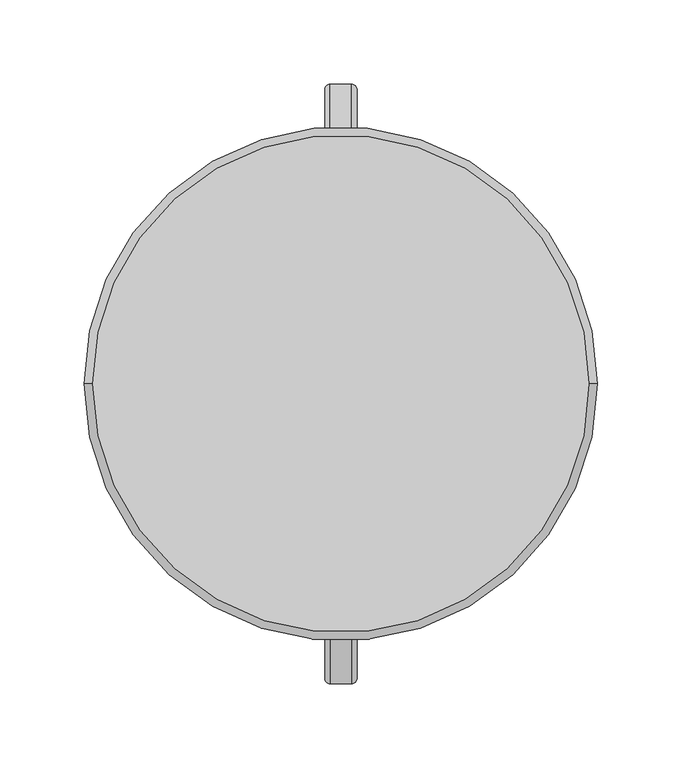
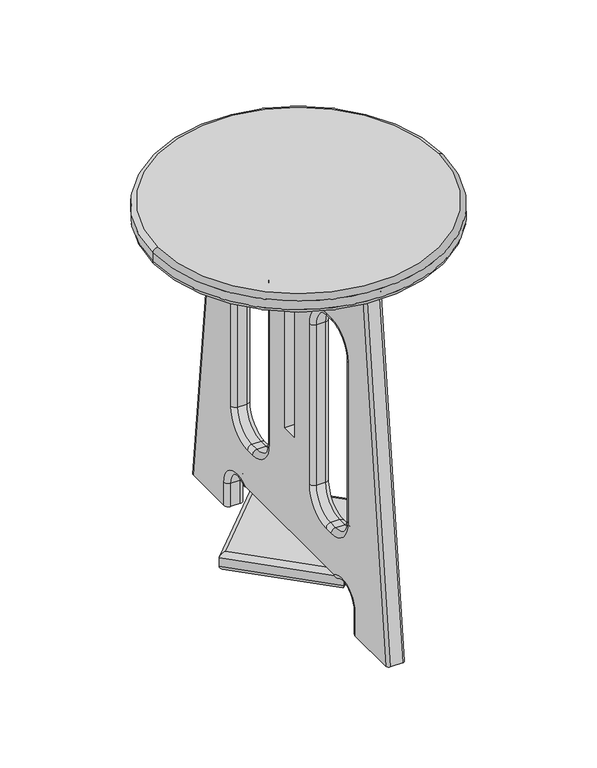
"""IFC4 building model written with IfcOpenShell, lengths in millimetres: furniture geometry, SSL-Childcraft_Outdoor-Stool : 2161353."""

from ifc_helpers import new_model, si_unit, point, frame, origin, origin_with_axes, place, context, project, spatial, polyline, circle_curve, ellipse_curve, trimmed, source, transform, mapped, element, save
from ifc_brep_helpers import plane_surface, cylinder_surface, revolved_surface, extruded_surface, spline_surface, advanced_brep


def furniture_f012aeb6(model_context):
    return source(origin(), model_context, "Body", "AdvancedBrep", [
        advanced_brep(
        [(6.35, 134.9375, 387.35), (9.525, 131.7625, 387.35), (9.525, 174.6274937, 0.0), (6.3524937, 177.8, 0.0), (-6.35, 134.9375, 387.35), (-6.35, 177.8, 0.0), (-9.525, 131.7625, 387.35), (-9.525, 174.625, 0.0), (4.7625, -41.2877, 117.475), (4.7625, -66.675, 92.0877), (9.525, -66.675, 87.3252), (9.525, -36.5252, 117.475), (-4.7625, -41.2877, 117.475), (-4.7625, -66.675, 92.0877), (-9.525, -36.5252, 117.475), (-9.525, -66.675, 87.3252), (9.525, -36.5252, 295.275), (4.7625, -41.2877, 295.275), (-4.7625, -41.2877, 295.275), (-9.525, -36.5252, 295.275), (9.525, -66.675, 325.4248), (4.7625, -66.675, 320.6623), (-4.7625, -66.675, 320.6623), (-9.525, -66.675, 325.4248), (9.525, -76.1873, 325.4248), (4.7625, -76.1873, 320.6623), (-4.7625, -76.1873, 320.6623), (-9.525, -76.1873, 325.4248), (9.525, -106.3498, 295.2623), (4.7625, -101.5873, 295.2623), (-4.7625, -101.5873, 295.2623), (-9.525, -106.3498, 295.2623), (9.525, -106.3498, 117.475), (4.7625, -101.5873, 117.475), (-4.7625, -101.5873, 117.475), (-9.525, -106.3498, 117.475), (9.525, -76.2, 87.3252), (4.7625, -76.2, 92.0877), (-4.7625, -76.2, 92.0877), (-9.525, -76.2, 87.3252), (4.7625, 101.5873, 117.475), (4.7625, 76.2, 92.0877), (9.525, 76.2, 87.3252), (9.525, 106.3498, 117.475), (-4.7625, 101.5873, 117.475), (-4.7625, 76.2, 92.0877), (-9.525, 106.3498, 117.475), (-9.525, 76.2, 87.3252), (9.525, 106.3498, 295.2623), (4.7625, 101.5873, 295.2623), (-4.7625, 101.5873, 295.2623), (-9.525, 106.3498, 295.2623), (9.525, 76.1873, 325.4248), (4.7625, 76.1873, 320.6623), (-4.7625, 76.1873, 320.6623), (-9.525, 76.1873, 325.4248), (9.525, 66.675, 325.4248), (4.7625, 66.675, 320.6623), (-4.7625, 66.675, 320.6623), (-9.525, 66.675, 325.4248), (9.525, 36.5252, 295.275), (4.7625, 41.2877, 295.275), (-4.7625, 41.2877, 295.275), (-9.525, 36.5252, 295.275), (9.525, 36.5252, 117.475), (4.7625, 41.2877, 117.475), (-4.7625, 41.2877, 117.475), (-9.525, 36.5252, 117.475), (9.525, 66.675, 87.3252), (4.7625, 66.675, 92.0877), (-4.7625, 66.675, 92.0877), (-9.525, 66.675, 87.3252), (4.7625, 114.2873, 0.0), (9.525, 119.0498, 0.0), (9.525, 119.0498, 25.4), (4.7625, 114.2873, 25.4), (-4.7625, 114.2873, 0.0), (-4.7625, 114.2873, 25.4), (-9.525, 119.0498, 0.0), (-9.525, 119.0498, 25.4), (-9.525, 80.97012, 44.43984), (-4.7625, 83.82762, 40.62984), (4.7625, 83.82762, 40.62984), (9.525, 80.97012, 44.43984), (9.525, -119.0498, 0.0), (4.7625, -114.2873, 0.0), (4.7625, -114.2873, 25.4), (9.525, -119.0498, 25.4), (-4.7625, -114.2873, 0.0), (-4.7625, -114.2873, 25.4), (-9.525, -119.0498, 0.0), (-9.525, -119.0498, 25.4), (9.525, -80.97012, 44.43984), (4.7625, -83.82762, 40.62984), (-4.7625, -83.82762, 40.62984), (-9.525, -80.97012, 44.43984), (9.525, 101.6, 387.35), (9.525, 82.55, 368.3), (9.525, 9.525, 368.3), (9.525, 9.525, 152.4), (9.525, -9.525, 152.4), (9.525, -9.525, 368.3), (9.525, -82.55, 368.3), (9.525, -101.6, 387.35), (9.525, -131.7625, 387.35), (9.525, -174.625, 0.0), (-9.525, -174.6274937, 0.0), (-9.525, -131.7625, 387.35), (-9.525, -101.6, 387.35), (-9.525, -82.55, 368.3), (-9.525, -9.525, 368.3), (-9.525, -9.525, 152.4), (-9.525, 9.525, 152.4), (-9.525, 9.525, 368.3), (-9.525, 82.55, 368.3), (-9.525, 101.6, 387.35), (-6.35, -134.9375, 387.35), (6.35, -134.9375, 387.35), (6.35, -177.8, 0.0), (-6.3524937, -177.8, 0.0)],
        [
            (0, 1, circle_curve(frame((6.35, 131.7625, 387.35), z_axis=(0.0, 0.0, -1.0), x_axis=(1.0, 0.0, 0.0)), 3.175)),
            (1, 2),
            (2, 3, circle_curve(frame((6.3524937, 174.6274937, 0.0), z_axis=(0.0, 0.0, 1.0), x_axis=(1.0, 0.0, 0.0)), 3.1725063)),
            (3, 0),
            (4, 0),
            (3, 5),
            (5, 4),
            (6, 4, circle_curve(frame((-6.35, 131.7625, 387.35), z_axis=(0.0, 0.0, -1.0), x_axis=(1.0, 0.0, 0.0)), 3.175)),
            (5, 7, circle_curve(frame((-6.35, 174.625, 0.0), z_axis=(0.0, 0.0, 1.0), x_axis=(1.0, 0.0, 0.0)), 3.175)),
            (7, 6),
            (8, 9, circle_curve(frame((4.7625, -66.675, 117.475), z_axis=(-1.0, 0.0, 0.0), x_axis=(0.0, 0.0, -1.0)), 25.3873)),
            (9, 10, circle_curve(frame((4.7625, -66.675, 87.3252), z_axis=(0.0, 1.0, 0.0), x_axis=(0.0, 0.0, 1.0)), 4.7625)),
            (10, 11, circle_curve(frame((9.525, -66.675, 117.475), z_axis=(1.0, 0.0, 0.0), x_axis=(0.0, 0.0, -1.0)), 30.1498)),
            (11, 8, circle_curve(frame((4.7625, -36.5252, 117.475), z_axis=(0.0, 0.0, -1.0), x_axis=(0.0, -1.0, 0.0)), 4.7625)),
            (8, 12),
            (12, 13, circle_curve(frame((-4.7625, -66.675, 117.475), z_axis=(-1.0, 0.0, 0.0), x_axis=(0.0, 0.0, -1.0)), 25.3873)),
            (13, 9),
            (12, 14, circle_curve(frame((-4.7625, -36.5252, 117.475), z_axis=(0.0, 0.0, -1.0), x_axis=(0.0, -1.0, 0.0)), 4.7625)),
            (14, 15, circle_curve(frame((-9.525, -66.675, 117.475), z_axis=(-1.0, 0.0, 0.0), x_axis=(0.0, 0.0, -1.0)), 30.1498)),
            (15, 13, circle_curve(frame((-4.7625, -66.675, 87.3252), z_axis=(0.0, 1.0, 0.0), x_axis=(0.0, 0.0, 1.0)), 4.7625)),
            (11, 16),
            (16, 17, circle_curve(frame((4.7625, -36.5252, 295.275), z_axis=(0.0, 0.0, -1.0), x_axis=(0.0, -1.0, 0.0)), 4.7625)),
            (17, 8),
            (17, 18),
            (18, 12),
            (18, 19, circle_curve(frame((-4.7625, -36.5252, 295.275), z_axis=(0.0, 0.0, -1.0), x_axis=(0.0, -1.0, 0.0)), 4.7625)),
            (19, 14),
            (16, 20, circle_curve(frame((9.525, -66.675, 295.275), z_axis=(1.0, 0.0, 0.0), x_axis=(0.0, 1.0, 0.0)), 30.1498)),
            (20, 21, circle_curve(frame((4.7625, -66.675, 325.4248), z_axis=(0.0, 1.0, 0.0), x_axis=(0.0, 0.0, -1.0)), 4.7625)),
            (21, 17, circle_curve(frame((4.7625, -66.675, 295.275), z_axis=(-1.0, 0.0, 0.0), x_axis=(0.0, 1.0, 0.0)), 25.3873)),
            (21, 22),
            (22, 18, circle_curve(frame((-4.7625, -66.675, 295.275), z_axis=(-1.0, 0.0, 0.0), x_axis=(0.0, 1.0, 0.0)), 25.3873)),
            (22, 23, circle_curve(frame((-4.7625, -66.675, 325.4248), z_axis=(0.0, 1.0, 0.0), x_axis=(0.0, 0.0, -1.0)), 4.7625)),
            (23, 19, circle_curve(frame((-9.525, -66.675, 295.275), z_axis=(-1.0, 0.0, 0.0), x_axis=(0.0, 1.0, 0.0)), 30.1498)),
            (20, 24),
            (24, 25, circle_curve(frame((4.7625, -76.1873, 325.4248), z_axis=(0.0, 1.0, 0.0), x_axis=(0.0, 0.0, -1.0)), 4.7625)),
            (25, 21),
            (25, 26),
            (26, 22),
            (26, 27, circle_curve(frame((-4.7625, -76.1873, 325.4248), z_axis=(0.0, 1.0, 0.0), x_axis=(0.0, 0.0, -1.0)), 4.7625)),
            (27, 23),
            (24, 28, circle_curve(frame((9.525, -76.1873, 295.2623), z_axis=(1.0, 0.0, 0.0), x_axis=(0.0, 0.0, 1.0)), 30.1625)),
            (28, 29, circle_curve(frame((4.7625, -106.3498, 295.2623), z_axis=(0.0, 0.0, 1.0), x_axis=(0.0, 1.0, 0.0)), 4.7625)),
            (29, 25, circle_curve(frame((4.7625, -76.1873, 295.2623), z_axis=(-1.0, 0.0, 0.0), x_axis=(0.0, 0.0, 1.0)), 25.4)),
            (29, 30),
            (30, 26, circle_curve(frame((-4.7625, -76.1873, 295.2623), z_axis=(-1.0, 0.0, 0.0), x_axis=(0.0, 0.0, 1.0)), 25.4)),
            (30, 31, circle_curve(frame((-4.7625, -106.3498, 295.2623), z_axis=(0.0, 0.0, 1.0), x_axis=(0.0, 1.0, 0.0)), 4.7625)),
            (31, 27, circle_curve(frame((-9.525, -76.1873, 295.2623), z_axis=(-1.0, 0.0, 0.0), x_axis=(0.0, 0.0, 1.0)), 30.1625)),
            (28, 32),
            (32, 33, circle_curve(frame((4.7625, -106.3498, 117.475), z_axis=(0.0, 0.0, 1.0), x_axis=(0.0, 1.0, 0.0)), 4.7625)),
            (33, 29),
            (33, 34),
            (34, 30),
            (34, 35, circle_curve(frame((-4.7625, -106.3498, 117.475), z_axis=(0.0, 0.0, 1.0), x_axis=(0.0, 1.0, 0.0)), 4.7625)),
            (35, 31),
            (32, 36, circle_curve(frame((9.525, -76.2, 117.475), z_axis=(1.0, 0.0, 0.0), x_axis=(0.0, -1.0, 0.0)), 30.1498)),
            (36, 37, circle_curve(frame((4.7625, -76.2, 87.3252), z_axis=(0.0, -1.0, 0.0), x_axis=(0.0, 0.0, 1.0)), 4.7625)),
            (37, 33, circle_curve(frame((4.7625, -76.2, 117.475), z_axis=(-1.0, 0.0, 0.0), x_axis=(0.0, -1.0, 0.0)), 25.3873)),
            (37, 38),
            (38, 34, circle_curve(frame((-4.7625, -76.2, 117.475), z_axis=(-1.0, 0.0, 0.0), x_axis=(0.0, -1.0, 0.0)), 25.3873)),
            (38, 39, circle_curve(frame((-4.7625, -76.2, 87.3252), z_axis=(0.0, -1.0, 0.0), x_axis=(0.0, 0.0, 1.0)), 4.7625)),
            (39, 35, circle_curve(frame((-9.525, -76.2, 117.475), z_axis=(-1.0, 0.0, 0.0), x_axis=(0.0, -1.0, 0.0)), 30.1498)),
            (9, 37),
            (36, 10),
            (13, 38),
            (15, 39),
            (40, 41, circle_curve(frame((4.7625, 76.2, 117.475), z_axis=(-1.0, 0.0, 0.0), x_axis=(0.0, 0.0, -1.0)), 25.3873)),
            (41, 42, circle_curve(frame((4.7625, 76.2, 87.3252), z_axis=(0.0, 1.0, 0.0), x_axis=(0.0, 0.0, 1.0)), 4.7625)),
            (42, 43, circle_curve(frame((9.525, 76.2, 117.475), z_axis=(1.0, 0.0, 0.0), x_axis=(0.0, 0.0, -1.0)), 30.1498)),
            (43, 40, circle_curve(frame((4.7625, 106.3498, 117.475), z_axis=(0.0, 0.0, -1.0), x_axis=(0.0, -1.0, 0.0)), 4.7625)),
            (40, 44),
            (44, 45, circle_curve(frame((-4.7625, 76.2, 117.475), z_axis=(-1.0, 0.0, 0.0), x_axis=(0.0, 0.0, -1.0)), 25.3873)),
            (45, 41),
            (44, 46, circle_curve(frame((-4.7625, 106.3498, 117.475), z_axis=(0.0, 0.0, -1.0), x_axis=(0.0, -1.0, 0.0)), 4.7625)),
            (46, 47, circle_curve(frame((-9.525, 76.2, 117.475), z_axis=(-1.0, 0.0, 0.0), x_axis=(0.0, 0.0, -1.0)), 30.1498)),
            (47, 45, circle_curve(frame((-4.7625, 76.2, 87.3252), z_axis=(0.0, 1.0, 0.0), x_axis=(0.0, 0.0, 1.0)), 4.7625)),
            (43, 48),
            (48, 49, circle_curve(frame((4.7625, 106.3498, 295.2623), z_axis=(0.0, 0.0, -1.0), x_axis=(0.0, -1.0, 0.0)), 4.7625)),
            (49, 40),
            (49, 50),
            (50, 44),
            (50, 51, circle_curve(frame((-4.7625, 106.3498, 295.2623), z_axis=(0.0, 0.0, -1.0), x_axis=(0.0, -1.0, 0.0)), 4.7625)),
            (51, 46),
            (48, 52, circle_curve(frame((9.525, 76.1873, 295.2623), z_axis=(1.0, 0.0, 0.0), x_axis=(0.0, 1.0, 0.0)), 30.1625)),
            (52, 53, circle_curve(frame((4.7625, 76.1873, 325.4248), z_axis=(0.0, 1.0, 0.0), x_axis=(0.0, 0.0, -1.0)), 4.7625)),
            (53, 49, circle_curve(frame((4.7625, 76.1873, 295.2623), z_axis=(-1.0, 0.0, 0.0), x_axis=(0.0, 1.0, 0.0)), 25.4)),
            (53, 54),
            (54, 50, circle_curve(frame((-4.7625, 76.1873, 295.2623), z_axis=(-1.0, 0.0, 0.0), x_axis=(0.0, 1.0, 0.0)), 25.4)),
            (54, 55, circle_curve(frame((-4.7625, 76.1873, 325.4248), z_axis=(0.0, 1.0, 0.0), x_axis=(0.0, 0.0, -1.0)), 4.7625)),
            (55, 51, circle_curve(frame((-9.525, 76.1873, 295.2623), z_axis=(-1.0, 0.0, 0.0), x_axis=(0.0, 1.0, 0.0)), 30.1625)),
            (52, 56),
            (56, 57, circle_curve(frame((4.7625, 66.675, 325.4248), z_axis=(0.0, 1.0, 0.0), x_axis=(0.0, 0.0, -1.0)), 4.7625)),
            (57, 53),
            (57, 58),
            (58, 54),
            (58, 59, circle_curve(frame((-4.7625, 66.675, 325.4248), z_axis=(0.0, 1.0, 0.0), x_axis=(0.0, 0.0, -1.0)), 4.7625)),
            (59, 55),
            (56, 60, circle_curve(frame((9.525, 66.675, 295.275), z_axis=(1.0, 0.0, 0.0), x_axis=(0.0, 0.0, 1.0)), 30.1498)),
            (60, 61, circle_curve(frame((4.7625, 36.5252, 295.275), z_axis=(0.0, 0.0, 1.0), x_axis=(0.0, 1.0, 0.0)), 4.7625)),
            (61, 57, circle_curve(frame((4.7625, 66.675, 295.275), z_axis=(-1.0, 0.0, 0.0), x_axis=(0.0, 0.0, 1.0)), 25.3873)),
            (61, 62),
            (62, 58, circle_curve(frame((-4.7625, 66.675, 295.275), z_axis=(-1.0, 0.0, 0.0), x_axis=(0.0, 0.0, 1.0)), 25.3873)),
            (62, 63, circle_curve(frame((-4.7625, 36.5252, 295.275), z_axis=(0.0, 0.0, 1.0), x_axis=(0.0, 1.0, 0.0)), 4.7625)),
            (63, 59, circle_curve(frame((-9.525, 66.675, 295.275), z_axis=(-1.0, 0.0, 0.0), x_axis=(0.0, 0.0, 1.0)), 30.1498)),
            (60, 64),
            (64, 65, circle_curve(frame((4.7625, 36.5252, 117.475), z_axis=(0.0, 0.0, 1.0), x_axis=(0.0, 1.0, 0.0)), 4.7625)),
            (65, 61),
            (65, 66),
            (66, 62),
            (66, 67, circle_curve(frame((-4.7625, 36.5252, 117.475), z_axis=(0.0, 0.0, 1.0), x_axis=(0.0, 1.0, 0.0)), 4.7625)),
            (67, 63),
            (64, 68, circle_curve(frame((9.525, 66.675, 117.475), z_axis=(1.0, 0.0, 0.0), x_axis=(0.0, -1.0, 0.0)), 30.1498)),
            (68, 69, circle_curve(frame((4.7625, 66.675, 87.3252), z_axis=(0.0, -1.0, 0.0), x_axis=(0.0, 0.0, 1.0)), 4.7625)),
            (69, 65, circle_curve(frame((4.7625, 66.675, 117.475), z_axis=(-1.0, 0.0, 0.0), x_axis=(0.0, -1.0, 0.0)), 25.3873)),
            (69, 70),
            (70, 66, circle_curve(frame((-4.7625, 66.675, 117.475), z_axis=(-1.0, 0.0, 0.0), x_axis=(0.0, -1.0, 0.0)), 25.3873)),
            (70, 71, circle_curve(frame((-4.7625, 66.675, 87.3252), z_axis=(0.0, -1.0, 0.0), x_axis=(0.0, 0.0, 1.0)), 4.7625)),
            (71, 67, circle_curve(frame((-9.525, 66.675, 117.475), z_axis=(-1.0, 0.0, 0.0), x_axis=(0.0, -1.0, 0.0)), 30.1498)),
            (41, 69),
            (68, 42),
            (45, 70),
            (47, 71),
            (72, 73, circle_curve(frame((4.7625, 119.0498, 0.0), z_axis=(0.0, 0.0, 1.0), x_axis=(0.0, -1.0, 0.0)), 4.7625)),
            (73, 74),
            (74, 75, circle_curve(frame((4.7625, 119.0498, 25.4), z_axis=(0.0, 0.0, -1.0), x_axis=(0.0, -1.0, 0.0)), 4.7625)),
            (75, 72),
            (76, 72),
            (75, 77),
            (77, 76),
            (78, 76, circle_curve(frame((-4.7625, 119.0498, 0.0), z_axis=(0.0, 0.0, 1.0), x_axis=(0.0, -1.0, 0.0)), 4.7625)),
            (77, 79, circle_curve(frame((-4.7625, 119.0498, 25.4), z_axis=(0.0, 0.0, -1.0), x_axis=(0.0, -1.0, 0.0)), 4.7625)),
            (79, 78),
            (80, 81, circle_curve(frame((-4.7625, 80.97012, 44.43984), z_axis=(0.0, -0.8000000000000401, -0.5999999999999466), x_axis=(0.0, 0.5999999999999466, -0.8000000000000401)), 4.7625)),
            (81, 82),
            (82, 83, circle_curve(frame((4.7625, 80.97012, 44.43984), z_axis=(0.0, -0.8000000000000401, -0.5999999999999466), x_axis=(0.0, 0.5999999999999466, -0.8000000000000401)), 4.7625)),
            (83, 80),
            (74, 83, circle_curve(frame((9.525, 95.25, 25.4), z_axis=(1.0, 0.0, 0.0), x_axis=(0.0, 1.0, 0.0)), 23.7998)),
            (82, 75, circle_curve(frame((4.7625, 95.25, 25.4), z_axis=(-1.0, 0.0, 0.0), x_axis=(0.0, 1.0, 0.0)), 19.0373)),
            (81, 77, circle_curve(frame((-4.7625, 95.25, 25.4), z_axis=(-1.0, 0.0, 0.0), x_axis=(0.0, 1.0, 0.0)), 19.0373)),
            (80, 79, circle_curve(frame((-9.525, 95.25, 25.4), z_axis=(-1.0, 0.0, 0.0), x_axis=(0.0, 1.0, 0.0)), 23.7998)),
            (84, 85, circle_curve(frame((4.7625, -119.0498, 0.0), z_axis=(0.0, 0.0, 1.0), x_axis=(0.0, -1.0, 0.0)), 4.7625)),
            (85, 86),
            (86, 87, circle_curve(frame((4.7625, -119.0498, 25.4), z_axis=(0.0, 0.0, -1.0), x_axis=(0.0, -1.0, 0.0)), 4.7625)),
            (87, 84),
            (85, 88),
            (88, 89),
            (89, 86),
            (88, 90, circle_curve(frame((-4.7625, -119.0498, 0.0), z_axis=(0.0, 0.0, 1.0), x_axis=(0.0, -1.0, 0.0)), 4.7625)),
            (90, 91),
            (91, 89, circle_curve(frame((-4.7625, -119.0498, 25.4), z_axis=(0.0, 0.0, -1.0), x_axis=(0.0, -1.0, 0.0)), 4.7625)),
            (92, 93, circle_curve(frame((4.7625, -80.97012, 44.43984), z_axis=(0.0, 0.8000000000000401, -0.5999999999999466), x_axis=(0.0, 0.5999999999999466, 0.8000000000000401)), 4.7625)),
            (93, 94),
            (94, 95, circle_curve(frame((-4.7625, -80.97012, 44.43984), z_axis=(0.0, 0.8000000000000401, -0.5999999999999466), x_axis=(0.0, 0.5999999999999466, 0.8000000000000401)), 4.7625)),
            (95, 92),
            (86, 93, circle_curve(frame((4.7625, -95.25, 25.4), z_axis=(-1.0, 0.0, 0.0), x_axis=(0.0, -1.0, 0.0)), 19.0373)),
            (92, 87, circle_curve(frame((9.525, -95.25, 25.4), z_axis=(1.0, 0.0, 0.0), x_axis=(0.0, -1.0, 0.0)), 23.7998)),
            (89, 94, circle_curve(frame((-4.7625, -95.25, 25.4), z_axis=(-1.0, 0.0, 0.0), x_axis=(0.0, -1.0, 0.0)), 19.0373)),
            (91, 95, circle_curve(frame((-9.525, -95.25, 25.4), z_axis=(-1.0, 0.0, 0.0), x_axis=(0.0, -1.0, 0.0)), 23.7998)),
            (96, 97, circle_curve(frame((9.525, 82.55, 387.35), z_axis=(-1.0, 0.0, 0.0), x_axis=(0.0, 1.0, 0.0)), 19.05)),
            (97, 98),
            (98, 99),
            (99, 100),
            (100, 101),
            (101, 102),
            (102, 103, circle_curve(frame((9.525, -82.55, 387.35), z_axis=(-1.0, 0.0, 0.0), x_axis=(0.0, 1.0, 0.0)), 19.05)),
            (103, 104),
            (104, 105),
            (105, 84),
            (92, 83),
            (73, 2),
            (1, 96),
            (80, 95),
            (90, 106),
            (106, 107),
            (107, 108),
            (108, 109, circle_curve(frame((-9.525, -82.55, 387.35), z_axis=(1.0, 0.0, 0.0), x_axis=(0.0, 1.0, 0.0)), 19.05)),
            (109, 110),
            (110, 111),
            (111, 112),
            (112, 113),
            (113, 114),
            (114, 115, circle_curve(frame((-9.525, 82.55, 387.35), z_axis=(1.0, 0.0, 0.0), x_axis=(0.0, 1.0, 0.0)), 19.05)),
            (115, 6),
            (7, 78),
            (115, 96),
            (114, 97),
            (113, 98),
            (112, 99),
            (111, 100),
            (110, 101),
            (109, 102),
            (108, 103),
            (107, 116, circle_curve(frame((-6.35, -131.7625, 387.35), z_axis=(0.0, 0.0, 1.0), x_axis=(-1.0, 0.0, 0.0)), 3.175)),
            (116, 117),
            (117, 104, circle_curve(frame((6.35, -131.7625, 387.35), z_axis=(0.0, 0.0, 1.0), x_axis=(-1.0, 0.0, 0.0)), 3.175)),
            (105, 118, circle_curve(frame((6.35, -174.625, 0.0), z_axis=(0.0, 0.0, -1.0), x_axis=(-1.0, 0.0, 0.0)), 3.175)),
            (118, 119),
            (119, 106, circle_curve(frame((-6.3524937, -174.6274937, 0.0), z_axis=(0.0, 0.0, -1.0), x_axis=(-1.0, 0.0, 0.0)), 3.1725063)),
            (119, 116),
            (118, 117),
        ],
        [
            spline_surface(2, 1, [[(9.525, 174.6274937, 0.0), (9.525, 131.7625, 387.35)], [(9.52499999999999, 177.8, 0.0), (9.52499999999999, 134.9375, 387.35)], [(6.3524937, 177.8, 0.0), (6.35, 134.9375, 387.35)]], [3, 3], [2, 2], [0.0, 1.0], [0.0, 1.0], weights=[[1.0, 1.0], [0.7071067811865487, 0.7071067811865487], [1.0, 1.0]]),
            plane_surface(frame((0.0012468, 177.8, 0.0), z_axis=(0.0, 0.9939333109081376, 0.10998442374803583), x_axis=(-1.0, 0.0, 0.0))),
            extruded_surface(trimmed(circle_curve(frame((-6.35, 174.625, 0.0), z_axis=(0.0, 0.0, 1.0), x_axis=(1.0, 0.0, 0.0)), 3.175), [point((-6.35, 177.8, 0.0))], [point((-9.525, 174.625, 0.0))], True, "CARTESIAN"), (0.0, -42.86250000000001, 387.35), 389.7142753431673),
            revolved_surface(trimmed(ellipse_curve(frame((4.7625, -66.675, 87.3252), z_axis=(0.0, -1.0, 0.0), x_axis=(0.0, 0.0, 1.0)), 4.7625, 4.7625), [point((9.525, -66.675, 87.3252))], [point((4.7625, -66.675, 92.0877))], True, "CARTESIAN"), (0.0, -66.675, 117.475), (1.0, 0.0, 0.0)),
            revolved_surface(polyline([(4.7625, -66.675, 92.0877), (-4.7625, -66.675, 92.0877)]), (0.0, -66.675, 117.475), (1.0, 0.0, 0.0)),
            revolved_surface(trimmed(ellipse_curve(frame((-4.7625, -66.675, 87.3252), z_axis=(0.0, -1.0, 0.0), x_axis=(0.0, 0.0, 1.0)), 4.7625, 4.7625), [point((-4.7625, -66.675, 92.0877))], [point((-9.525, -66.675, 87.3252))], True, "CARTESIAN"), (0.0, -66.675, 117.475), (1.0, 0.0, 0.0)),
            cylinder_surface(frame((4.7625, -36.5252, 117.475), z_axis=(0.0, 0.0, -1.0), x_axis=(0.0, -1.0, 0.0)), 4.7625),
            plane_surface(frame((4.7625, -41.2877, 117.475), z_axis=(0.0, -1.0, 0.0), x_axis=(0.0, 0.0, 1.0))),
            cylinder_surface(frame((-4.7625, -36.5252, 117.475), z_axis=(0.0, 0.0, -1.0), x_axis=(0.0, -1.0, 0.0)), 4.7625),
            revolved_surface(trimmed(ellipse_curve(frame((4.7625, -36.5252, 295.275), z_axis=(0.0, 0.0, -1.0), x_axis=(0.0, -1.0, 0.0)), 4.7625, 4.7625), [point((9.525, -36.5252, 295.275))], [point((4.7625, -41.2877, 295.275))], True, "CARTESIAN"), (0.0, -66.675, 295.275), (1.0, 0.0, 0.0)),
            revolved_surface(polyline([(4.7625, -41.2877, 295.275), (-4.7625, -41.2877, 295.275)]), (0.0, -66.675, 295.275), (1.0, 0.0, 0.0)),
            revolved_surface(trimmed(ellipse_curve(frame((-4.7625, -36.5252, 295.275), z_axis=(0.0, 0.0, -1.0), x_axis=(0.0, -1.0, 0.0)), 4.7625, 4.7625), [point((-4.7625, -41.2877, 295.275))], [point((-9.525, -36.5252, 295.275))], True, "CARTESIAN"), (0.0, -66.675, 295.275), (1.0, 0.0, 0.0)),
            cylinder_surface(frame((4.7625, -66.675, 325.4248), z_axis=(0.0, 1.0, 0.0), x_axis=(0.0, 0.0, -1.0)), 4.7625),
            plane_surface(frame((4.7625, -66.675, 320.6623), z_axis=(0.0, 0.0, -1.0), x_axis=(0.0, -1.0, 0.0))),
            cylinder_surface(frame((-4.7625, -66.675, 325.4248), z_axis=(0.0, 1.0, 0.0), x_axis=(0.0, 0.0, -1.0)), 4.7625),
            revolved_surface(trimmed(ellipse_curve(frame((4.7625, -76.1873, 325.4248), z_axis=(0.0, 1.0, 0.0), x_axis=(0.0, 0.0, -1.0)), 4.7625, 4.7625), [point((9.525, -76.1873, 325.4248))], [point((4.7625, -76.1873, 320.6623))], True, "CARTESIAN"), (0.0, -76.1873, 295.2623), (1.0, 0.0, 0.0)),
            revolved_surface(polyline([(4.7625, -76.1873, 320.66229999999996), (-4.7625, -76.1873, 320.66229999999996)]), (0.0, -76.1873, 295.2623), (1.0, 0.0, 0.0)),
            revolved_surface(trimmed(ellipse_curve(frame((-4.7625, -76.1873, 325.4248), z_axis=(0.0, 1.0, 0.0), x_axis=(0.0, 0.0, -1.0)), 4.7625, 4.7625), [point((-4.7625, -76.1873, 320.6623))], [point((-9.525, -76.1873, 325.4248))], True, "CARTESIAN"), (0.0, -76.1873, 295.2623), (1.0, 0.0, 0.0)),
            cylinder_surface(frame((4.7625, -106.3498, 295.2623), z_axis=(0.0, 0.0, 1.0), x_axis=(0.0, 1.0, 0.0)), 4.7625),
            plane_surface(frame((4.7625, -101.5873, 295.2623), z_axis=(0.0, 1.0, 0.0), x_axis=(0.0, 0.0, -1.0))),
            cylinder_surface(frame((-4.7625, -106.3498, 295.2623), z_axis=(0.0, 0.0, 1.0), x_axis=(0.0, 1.0, 0.0)), 4.7625),
            revolved_surface(trimmed(ellipse_curve(frame((4.7625, -106.3498, 117.475), z_axis=(0.0, 0.0, 1.0), x_axis=(0.0, 1.0, 0.0)), 4.7625, 4.7625), [point((9.525, -106.3498, 117.475))], [point((4.7625, -101.5873, 117.475))], True, "CARTESIAN"), (0.0, -76.2, 117.475), (1.0, 0.0, 0.0)),
            revolved_surface(polyline([(4.7625, -101.5873, 117.475), (-4.7625, -101.5873, 117.475)]), (0.0, -76.2, 117.475), (1.0, 0.0, 0.0)),
            revolved_surface(trimmed(ellipse_curve(frame((-4.7625, -106.3498, 117.475), z_axis=(0.0, 0.0, 1.0), x_axis=(0.0, 1.0, 0.0)), 4.7625, 4.7625), [point((-4.7625, -101.5873, 117.475))], [point((-9.525, -106.3498, 117.475))], True, "CARTESIAN"), (0.0, -76.2, 117.475), (1.0, 0.0, 0.0)),
            cylinder_surface(frame((4.7625, -76.2, 87.3252), z_axis=(0.0, -1.0, 0.0), x_axis=(0.0, 0.0, 1.0)), 4.7625),
            plane_surface(frame((4.7625, -76.2, 92.0877), z_axis=(0.0, 0.0, 1.0), x_axis=(0.0, 1.0, 0.0))),
            cylinder_surface(frame((-4.7625, -76.2, 87.3252), z_axis=(0.0, -1.0, 0.0), x_axis=(0.0, 0.0, 1.0)), 4.7625),
            revolved_surface(trimmed(ellipse_curve(frame((4.7625, 76.2, 87.3252), z_axis=(0.0, -1.0, 0.0), x_axis=(0.0, 0.0, 1.0)), 4.7625, 4.7625), [point((9.525, 76.2, 87.3252))], [point((4.7625, 76.2, 92.0877))], True, "CARTESIAN"), (0.0, 76.2, 117.475), (1.0, 0.0, 0.0)),
            revolved_surface(polyline([(4.7625, 76.2, 92.0877), (-4.7625, 76.2, 92.0877)]), (0.0, 76.2, 117.475), (1.0, 0.0, 0.0)),
            revolved_surface(trimmed(ellipse_curve(frame((-4.7625, 76.2, 87.3252), z_axis=(0.0, -1.0, 0.0), x_axis=(0.0, 0.0, 1.0)), 4.7625, 4.7625), [point((-4.7625, 76.2, 92.0877))], [point((-9.525, 76.2, 87.3252))], True, "CARTESIAN"), (0.0, 76.2, 117.475), (1.0, 0.0, 0.0)),
            cylinder_surface(frame((4.7625, 106.3498, 117.475), z_axis=(0.0, 0.0, -1.0), x_axis=(0.0, -1.0, 0.0)), 4.7625),
            plane_surface(frame((4.7625, 101.5873, 117.475), z_axis=(0.0, -1.0, 0.0), x_axis=(0.0, 0.0, 1.0))),
            cylinder_surface(frame((-4.7625, 106.3498, 117.475), z_axis=(0.0, 0.0, -1.0), x_axis=(0.0, -1.0, 0.0)), 4.7625),
            revolved_surface(trimmed(ellipse_curve(frame((4.7625, 106.3498, 295.2623), z_axis=(0.0, 0.0, -1.0), x_axis=(0.0, -1.0, 0.0)), 4.7625, 4.7625), [point((9.525, 106.3498, 295.2623))], [point((4.7625, 101.5873, 295.2623))], True, "CARTESIAN"), (0.0, 76.1873, 295.2623), (1.0, 0.0, 0.0)),
            revolved_surface(polyline([(4.7625, 101.5873, 295.2623), (-4.7625, 101.5873, 295.2623)]), (0.0, 76.1873, 295.2623), (1.0, 0.0, 0.0)),
            revolved_surface(trimmed(ellipse_curve(frame((-4.7625, 106.3498, 295.2623), z_axis=(0.0, 0.0, -1.0), x_axis=(0.0, -1.0, 0.0)), 4.7625, 4.7625), [point((-4.7625, 101.5873, 295.2623))], [point((-9.525, 106.3498, 295.2623))], True, "CARTESIAN"), (0.0, 76.1873, 295.2623), (1.0, 0.0, 0.0)),
            cylinder_surface(frame((4.7625, 76.1873, 325.4248), z_axis=(0.0, 1.0, 0.0), x_axis=(0.0, 0.0, -1.0)), 4.7625),
            plane_surface(frame((4.7625, 76.1873, 320.6623), z_axis=(0.0, 0.0, -1.0), x_axis=(0.0, -1.0, 0.0))),
            cylinder_surface(frame((-4.7625, 76.1873, 325.4248), z_axis=(0.0, 1.0, 0.0), x_axis=(0.0, 0.0, -1.0)), 4.7625),
            revolved_surface(trimmed(ellipse_curve(frame((4.7625, 66.675, 325.4248), z_axis=(0.0, 1.0, 0.0), x_axis=(0.0, 0.0, -1.0)), 4.7625, 4.7625), [point((9.525, 66.675, 325.4248))], [point((4.7625, 66.675, 320.6623))], True, "CARTESIAN"), (0.0, 66.675, 295.275), (1.0, 0.0, 0.0)),
            revolved_surface(polyline([(4.7625, 66.675, 320.66229999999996), (-4.7625, 66.675, 320.66229999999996)]), (0.0, 66.675, 295.275), (1.0, 0.0, 0.0)),
            revolved_surface(trimmed(ellipse_curve(frame((-4.7625, 66.675, 325.4248), z_axis=(0.0, 1.0, 0.0), x_axis=(0.0, 0.0, -1.0)), 4.7625, 4.7625), [point((-4.7625, 66.675, 320.6623))], [point((-9.525, 66.675, 325.4248))], True, "CARTESIAN"), (0.0, 66.675, 295.275), (1.0, 0.0, 0.0)),
            cylinder_surface(frame((4.7625, 36.5252, 295.275), z_axis=(0.0, 0.0, 1.0), x_axis=(0.0, 1.0, 0.0)), 4.7625),
            plane_surface(frame((4.7625, 41.2877, 295.275), z_axis=(0.0, 1.0, 0.0), x_axis=(0.0, 0.0, -1.0))),
            cylinder_surface(frame((-4.7625, 36.5252, 295.275), z_axis=(0.0, 0.0, 1.0), x_axis=(0.0, 1.0, 0.0)), 4.7625),
            revolved_surface(trimmed(ellipse_curve(frame((4.7625, 36.5252, 117.475), z_axis=(0.0, 0.0, 1.0), x_axis=(0.0, 1.0, 0.0)), 4.7625, 4.7625), [point((9.525, 36.5252, 117.475))], [point((4.7625, 41.2877, 117.475))], True, "CARTESIAN"), (0.0, 66.675, 117.475), (1.0, 0.0, 0.0)),
            revolved_surface(polyline([(4.7625, 41.2877, 117.475), (-4.7625, 41.2877, 117.475)]), (0.0, 66.675, 117.475), (1.0, 0.0, 0.0)),
            revolved_surface(trimmed(ellipse_curve(frame((-4.7625, 36.5252, 117.475), z_axis=(0.0, 0.0, 1.0), x_axis=(0.0, 1.0, 0.0)), 4.7625, 4.7625), [point((-4.7625, 41.2877, 117.475))], [point((-9.525, 36.5252, 117.475))], True, "CARTESIAN"), (0.0, 66.675, 117.475), (1.0, 0.0, 0.0)),
            cylinder_surface(frame((4.7625, 66.675, 87.3252), z_axis=(0.0, -1.0, 0.0), x_axis=(0.0, 0.0, 1.0)), 4.7625),
            plane_surface(frame((4.7625, 66.675, 92.0877), z_axis=(0.0, 0.0, 1.0), x_axis=(0.0, 1.0, 0.0))),
            cylinder_surface(frame((-4.7625, 66.675, 87.3252), z_axis=(0.0, -1.0, 0.0), x_axis=(0.0, 0.0, 1.0)), 4.7625),
            cylinder_surface(frame((4.7625, 119.0498, 0.0), z_axis=(0.0, 0.0, -1.0), x_axis=(0.0, -1.0, 0.0)), 4.7625),
            plane_surface(frame((4.7625, 114.2873, 0.0), z_axis=(0.0, -1.0, 0.0), x_axis=(0.0, 0.0, 1.0))),
            cylinder_surface(frame((-4.7625, 119.0498, 0.0), z_axis=(0.0, 0.0, -1.0), x_axis=(0.0, -1.0, 0.0)), 4.7625),
            plane_surface(frame((0.0, 80.9625, 44.45), z_axis=(0.0, -0.8000000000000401, -0.5999999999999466), x_axis=(1.0, 0.0, 0.0))),
            revolved_surface(trimmed(ellipse_curve(frame((4.7625, 119.0498, 25.4), z_axis=(0.0, 0.0, -1.0), x_axis=(0.0, -1.0, 0.0)), 4.7625, 4.7625), [point((9.525, 119.0498, 25.4))], [point((4.7625, 114.2873, 25.4))], True, "CARTESIAN"), (0.0, 95.25, 25.4), (1.0, 0.0, 0.0)),
            revolved_surface(polyline([(4.7625, 114.2873, 25.4), (-4.7625, 114.2873, 25.4)]), (0.0, 95.25, 25.4), (1.0, 0.0, 0.0)),
            revolved_surface(trimmed(ellipse_curve(frame((-4.7625, 119.0498, 25.4), z_axis=(0.0, 0.0, -1.0), x_axis=(0.0, -1.0, 0.0)), 4.7625, 4.7625), [point((-4.7625, 114.2873, 25.4))], [point((-9.525, 119.0498, 25.4))], True, "CARTESIAN"), (0.0, 95.25, 25.4), (1.0, 0.0, 0.0)),
            cylinder_surface(frame((4.7625, -119.0498, 0.0), z_axis=(0.0, 0.0, -1.0), x_axis=(0.0, -1.0, 0.0)), 4.7625),
            plane_surface(frame((-4.7625, -114.2873, 0.0), z_axis=(0.0, 1.0, 0.0), x_axis=(0.0, 0.0, 1.0))),
            cylinder_surface(frame((-4.7625, -119.0498, 0.0), z_axis=(0.0, 0.0, -1.0), x_axis=(0.0, -1.0, 0.0)), 4.7625),
            plane_surface(frame((0.0, -80.9625, 44.45), z_axis=(0.0, 0.8000000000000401, -0.5999999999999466), x_axis=(1.0, 0.0, 0.0))),
            revolved_surface(trimmed(ellipse_curve(frame((4.7625, -119.0498, 25.4), z_axis=(0.0, 0.0, -1.0), x_axis=(0.0, -1.0, 0.0)), 4.7625, 4.7625), [point((4.7625, -114.2873, 25.4))], [point((9.525, -119.0498, 25.4))], True, "CARTESIAN"), (0.0, -95.25, 25.4), (-1.0, 0.0, 0.0)),
            revolved_surface(polyline([(-4.7625, -114.2873, 25.4), (4.7625, -114.2873, 25.4)]), (0.0, -95.25, 25.4), (-1.0, 0.0, 0.0)),
            revolved_surface(trimmed(ellipse_curve(frame((-4.7625, -119.0498, 25.4), z_axis=(0.0, 0.0, -1.0), x_axis=(0.0, -1.0, 0.0)), 4.7625, 4.7625), [point((-9.525, -119.0498, 25.4))], [point((-4.7625, -114.2873, 25.4))], True, "CARTESIAN"), (0.0, -95.25, 25.4), (-1.0, 0.0, 0.0)),
            plane_surface(frame((9.525, 129.38125, 387.35), z_axis=(1.0, 0.0, 0.0), x_axis=(0.0, -0.10998442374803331, 0.9939333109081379))),
            plane_surface(frame((-9.525, 129.38125, 387.35), z_axis=(-1.0, 0.0, 0.0), x_axis=(0.0, 0.10998442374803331, -0.9939333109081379))),
            plane_surface(frame((9.525, 129.38125, 387.35), z_axis=(0.0, 0.0, 1.0), x_axis=(-1.0, 0.0, 0.0))),
            revolved_surface(polyline([(-9.525, 101.6, 387.35), (9.525, 101.6, 387.35)]), (-9.525, 82.55, 387.35), (-1.0, 0.0, 0.0)),
            plane_surface(frame((9.525, 82.55, 368.3), z_axis=(0.0, 0.0, 1.0), x_axis=(-1.0, 0.0, 0.0))),
            plane_surface(frame((9.525, 9.525, 368.3), z_axis=(0.0, -1.0, 0.0), x_axis=(-1.0, 0.0, 0.0))),
            plane_surface(frame((9.525, 9.525, 152.4), z_axis=(0.0, 0.0, 1.0), x_axis=(-1.0, 0.0, 0.0))),
            plane_surface(frame((9.525, -9.525, 152.4), z_axis=(0.0, 1.0, 0.0), x_axis=(-1.0, 0.0, 0.0))),
            plane_surface(frame((9.525, -9.525, 368.3), z_axis=(0.0, 0.0, 1.0), x_axis=(-1.0, 0.0, 0.0))),
            revolved_surface(polyline([(-9.525, -63.5, 387.35), (9.525, -63.5, 387.35)]), (-9.525, -82.55, 387.35), (-1.0, 0.0, 0.0)),
            plane_surface(frame((9.525, -101.6, 387.35), z_axis=(0.0, 0.0, 1.0), x_axis=(-1.0, 0.0, 0.0))),
            plane_surface(frame((9.525, -172.24375, 0.0), z_axis=(0.0, 0.0, -1.0), x_axis=(-1.0, 0.0, 0.0))),
            plane_surface(frame((9.525, -80.9625, 44.45), z_axis=(0.0, 0.0, -1.0), x_axis=(-1.0, 0.0, 0.0))),
            plane_surface(frame((9.525, 119.0625, 0.0), z_axis=(0.0, 0.0, -1.0), x_axis=(-1.0, 0.0, 0.0))),
            spline_surface(2, 1, [[(-9.525, -174.6274937, 0.0), (-9.525, -131.7625, 387.35)], [(-9.52499999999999, -177.8, 0.0), (-9.52499999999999, -134.9375, 387.35)], [(-6.3524937, -177.8, 0.0), (-6.35, -134.9375, 387.35)]], [3, 3], [2, 2], [0.0, 1.0], [0.0, 1.0], weights=[[1.0, 1.0], [0.7071067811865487, 0.7071067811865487], [1.0, 1.0]]),
            plane_surface(frame((-0.0012468, -177.8, 0.0), z_axis=(0.0, -0.9939333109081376, 0.1099844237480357), x_axis=(1.0, 0.0, 0.0))),
            extruded_surface(trimmed(circle_curve(frame((6.35, -174.625, 0.0), z_axis=(0.0, 0.0, 1.0), x_axis=(-1.0, 0.0, 0.0)), 3.175), [point((6.35, -177.8, 0.0))], [point((9.525, -174.625, 0.0))], True, "CARTESIAN"), (0.0, 42.86250000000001, 387.35), 389.7142753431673),
        ],
        [
            (0, [[1, 2, 3, 4]]),
            (1, [[5, -4, 6, 7]]),
            (2, [[8, -7, 9, 10]]),
            (3, [[11, 12, 13, 14]]),
            (4, [[-11, 15, 16, 17]]),
            (5, [[-16, 18, 19, 20]]),
            (6, [[-14, 21, 22, 23]]),
            (7, [[-15, -23, 24, 25]]),
            (8, [[-18, -25, 26, 27]]),
            (9, [[-22, 28, 29, 30]]),
            (10, [[-24, -30, 31, 32]]),
            (11, [[-26, -32, 33, 34]]),
            (12, [[-29, 35, 36, 37]]),
            (13, [[-31, -37, 38, 39]]),
            (14, [[-33, -39, 40, 41]]),
            (15, [[-36, 42, 43, 44]]),
            (16, [[-38, -44, 45, 46]]),
            (17, [[-40, -46, 47, 48]]),
            (18, [[-43, 49, 50, 51]]),
            (19, [[-45, -51, 52, 53]]),
            (20, [[-47, -53, 54, 55]]),
            (21, [[-50, 56, 57, 58]]),
            (22, [[-52, -58, 59, 60]]),
            (23, [[-54, -60, 61, 62]]),
            (24, [[-12, 63, -57, 64]]),
            (25, [[-17, 65, -59, -63]]),
            (26, [[-20, 66, -61, -65]]),
            (27, [[67, 68, 69, 70]]),
            (28, [[-67, 71, 72, 73]]),
            (29, [[-72, 74, 75, 76]]),
            (30, [[-70, 77, 78, 79]]),
            (31, [[-71, -79, 80, 81]]),
            (32, [[-74, -81, 82, 83]]),
            (33, [[-78, 84, 85, 86]]),
            (34, [[-80, -86, 87, 88]]),
            (35, [[-82, -88, 89, 90]]),
            (36, [[-85, 91, 92, 93]]),
            (37, [[-87, -93, 94, 95]]),
            (38, [[-89, -95, 96, 97]]),
            (39, [[-92, 98, 99, 100]]),
            (40, [[-94, -100, 101, 102]]),
            (41, [[-96, -102, 103, 104]]),
            (42, [[-99, 105, 106, 107]]),
            (43, [[-101, -107, 108, 109]]),
            (44, [[-103, -109, 110, 111]]),
            (45, [[-106, 112, 113, 114]]),
            (46, [[-108, -114, 115, 116]]),
            (47, [[-110, -116, 117, 118]]),
            (48, [[-68, 119, -113, 120]]),
            (49, [[-73, 121, -115, -119]]),
            (50, [[-76, 122, -117, -121]]),
            (51, [[123, 124, 125, 126]]),
            (52, [[127, -126, 128, 129]]),
            (53, [[130, -129, 131, 132]]),
            (54, [[133, 134, 135, 136]]),
            (55, [[-125, 137, -135, 138]]),
            (56, [[-128, -138, -134, 139]]),
            (57, [[-131, -139, -133, 140]]),
            (58, [[141, 142, 143, 144]]),
            (59, [[145, 146, 147, -142]]),
            (60, [[148, 149, 150, -146]]),
            (61, [[151, 152, 153, 154]]),
            (62, [[-143, 155, -151, 156]]),
            (63, [[-147, 157, -152, -155]]),
            (64, [[-150, 158, -153, -157]]),
            (65, [[159, 160, 161, 162, 163, 164, 165, 166, 167, 168, -144, -156, 169, -137, -124, 170, -2, 171], [-69, -120, -112, -105, -98, -91, -84, -77], [-13, -64, -56, -49, -42, -35, -28, -21]]),
            (66, [[172, -158, -149, 173, 174, 175, 176, 177, 178, 179, 180, 181, 182, 183, -10, 184, -132, -140], [-75, -83, -90, -97, -104, -111, -118, -122], [-19, -27, -34, -41, -48, -55, -62, -66]]),
            (67, [[185, -171, -1, -5, -8, -183]]),
            (68, [[-159, -185, -182, 186]]),
            (69, [[-160, -186, -181, 187]]),
            (70, [[-161, -187, -180, 188]]),
            (71, [[-162, -188, -179, 189]]),
            (72, [[-163, -189, -178, 190]]),
            (73, [[-164, -190, -177, 191]]),
            (74, [[-165, -191, -176, 192]]),
            (75, [[-166, -192, -175, 193, 194, 195]]),
            (76, [[-173, -148, -145, -141, -168, 196, 197, 198]]),
            (77, [[-169, -154, -172, -136]]),
            (78, [[-9, -6, -3, -170, -123, -127, -130, -184]]),
            (79, [[-193, -174, -198, 199]]),
            (80, [[-194, -199, -197, 200]]),
            (81, [[-195, -200, -196, -167]]),
        ],
    ),
        advanced_brep(
        [(0.0, 83.0673691, 30.1625), (0.0, 83.0673691, 39.6875), (83.0673691, 0.0, 39.6875), (83.0673691, 0.0, 30.1625), (0.0, -83.0673691, 39.6875), (0.0, -83.0673691, 30.1625), (-83.0673691, 0.0, 39.6875), (-83.0673691, 0.0, 30.1625), (0.0, 76.332177, 44.45), (-76.332177, 0.0, 44.45), (0.0, -76.332177, 44.45), (76.332177, 0.0, 44.45), (76.332177, 0.0, 25.4), (0.0, -76.332177, 25.4), (-76.332177, 0.0, 25.4), (0.0, 76.332177, 25.4)],
        [
            (0, 1),
            (1, 2),
            (2, 3),
            (3, 0),
            (2, 4),
            (4, 5),
            (5, 3),
            (4, 6),
            (6, 7),
            (7, 5),
            (8, 9),
            (9, 10),
            (10, 11),
            (11, 8),
            (0, 7),
            (6, 1),
            (12, 13),
            (13, 14),
            (14, 15),
            (15, 12),
            (1, 8, ellipse_curve(frame((0.0, 76.332177, 39.6875), z_axis=(1.0, 0.0, 0.0), x_axis=(0.0, 1.0, 0.0)), 6.7351921, 4.7625)),
            (11, 2, ellipse_curve(frame((76.332177, 0.0, 39.6875), z_axis=(0.0, 1.0, 0.0), x_axis=(-1.0, 0.0, 0.0)), 6.7351921, 4.7625)),
            (3, 12, ellipse_curve(frame((76.332177, 0.0, 30.1625), z_axis=(0.0, 1.0, 0.0), x_axis=(-1.0, 0.0, 0.0)), 6.7351921, 4.7625)),
            (15, 0, ellipse_curve(frame((0.0, 76.332177, 30.1625), z_axis=(1.0, 0.0, 0.0), x_axis=(0.0, 1.0, 0.0)), 6.7351921, 4.7625)),
            (10, 4, ellipse_curve(frame((0.0, -76.332177, 39.6875), z_axis=(1.0, 0.0, 0.0), x_axis=(0.0, 1.0, 0.0)), 6.7351921, 4.7625)),
            (5, 13, ellipse_curve(frame((0.0, -76.332177, 30.1625), z_axis=(1.0, 0.0, 0.0), x_axis=(0.0, 1.0, 0.0)), 6.7351921, 4.7625)),
            (9, 6, ellipse_curve(frame((-76.332177, 0.0, 39.6875), z_axis=(0.0, -1.0, 0.0), x_axis=(1.0, 0.0, 0.0)), 6.7351921, 4.7625)),
            (7, 14, ellipse_curve(frame((-76.332177, 0.0, 30.1625), z_axis=(0.0, -1.0, 0.0), x_axis=(1.0, 0.0, 0.0)), 6.7351921, 4.7625)),
        ],
        [
            plane_surface(frame((0.0, 83.0673691, 39.6875), z_axis=(0.7071067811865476, 0.7071067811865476, 0.0), x_axis=(0.7071067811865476, -0.7071067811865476, 0.0))),
            plane_surface(frame((83.0673691, 0.0, 39.6875), z_axis=(0.7071067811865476, -0.7071067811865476, 0.0), x_axis=(-0.7071067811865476, -0.7071067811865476, 0.0))),
            plane_surface(frame((0.0, -83.0673691, 39.6875), z_axis=(-0.7071067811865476, -0.7071067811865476, 0.0), x_axis=(-0.7071067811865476, 0.7071067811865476, 0.0))),
            plane_surface(frame((-75.1916845, 0.0, 44.45), z_axis=(0.0, 0.0, 1.0000000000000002), x_axis=(0.7071067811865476, 0.7071067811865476, 0.0))),
            plane_surface(frame((-83.0673691, 0.0, 39.6875), z_axis=(-0.7071067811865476, 0.7071067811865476, 0.0), x_axis=(0.7071067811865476, 0.7071067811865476, 0.0))),
            plane_surface(frame((-76.332177, 0.0, 25.4), z_axis=(0.0, 0.0, -1.0), x_axis=(0.7071067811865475, 0.7071067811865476, 0.0))),
            cylinder_surface(frame((-3.367596, 79.6997731, 39.6875), z_axis=(-0.7071067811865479, 0.707106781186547, 0.0), x_axis=(0.707106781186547, 0.7071067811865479, 0.0)), 4.7625),
            cylinder_surface(frame((-3.367596, 79.6997731, 30.1625), z_axis=(-0.7071067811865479, 0.707106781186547, 0.0), x_axis=(0.707106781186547, 0.7071067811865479, 0.0)), 4.7625),
            cylinder_surface(frame((79.6997731, 3.367596, 39.6875), z_axis=(0.7071067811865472, 0.7071067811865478, 0.0), x_axis=(0.7071067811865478, -0.7071067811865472, 0.0)), 4.7625),
            cylinder_surface(frame((79.6997731, 3.367596, 30.1625), z_axis=(0.7071067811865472, 0.7071067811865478, 0.0), x_axis=(0.7071067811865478, -0.7071067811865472, 0.0)), 4.7625),
            cylinder_surface(frame((3.367596, -79.6997731, 39.6875), z_axis=(0.7071067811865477, -0.7071067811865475, 0.0), x_axis=(-0.7071067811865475, -0.7071067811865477, 0.0)), 4.7625),
            cylinder_surface(frame((3.367596, -79.6997731, 30.1625), z_axis=(0.7071067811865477, -0.7071067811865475, 0.0), x_axis=(-0.7071067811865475, -0.7071067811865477, 0.0)), 4.7625),
            cylinder_surface(frame((-79.6997731, -3.367596, 39.6875), z_axis=(-0.7071067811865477, -0.7071067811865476, 0.0), x_axis=(-0.7071067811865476, 0.7071067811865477, 0.0)), 4.7625),
            cylinder_surface(frame((-79.6997731, -3.367596, 30.1625), z_axis=(-0.7071067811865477, -0.7071067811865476, 0.0), x_axis=(-0.7071067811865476, 0.7071067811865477, 0.0)), 4.7625),
        ],
        [
            (0, [[1, 2, 3, 4]]),
            (1, [[-3, 5, 6, 7]]),
            (2, [[-6, 8, 9, 10]]),
            (3, [[11, 12, 13, 14]]),
            (4, [[-1, 15, -9, 16]]),
            (5, [[17, 18, 19, 20]]),
            (6, [[-2, 21, -14, 22]]),
            (7, [[-4, 23, -20, 24]]),
            (8, [[-5, -22, -13, 25]]),
            (9, [[-7, 26, -17, -23]]),
            (10, [[-8, -25, -12, 27]]),
            (11, [[-10, 28, -18, -26]]),
            (12, [[-11, -21, -16, -27]]),
            (13, [[-15, -24, -19, -28]]),
        ],
    ),
        advanced_brep(
        [(152.4, 0.0, 392.1252), (-152.4, 0.0, 392.1252), (-147.6248, 0.0, 387.35), (147.6248, 0.0, 387.35), (152.4, 0.0, 401.6553465), (-152.4, 0.0, 401.6553465), (147.6553465, 0.0, 406.4), (-147.6553465, 0.0, 406.4)],
        [
            (0, 1, circle_curve(frame((0.0, 0.0, 392.1252), z_axis=(0.0, 0.0, -1.0), x_axis=(-1.0, 0.0, 0.0)), 152.4)),
            (1, 2, circle_curve(frame((-147.6248, 0.0, 392.1252), z_axis=(0.0, -1.0, 0.0), x_axis=(1.0, 0.0, 0.0)), 4.7752)),
            (2, 3, circle_curve(frame((0.0, 0.0, 387.35), z_axis=(0.0, 0.0, 1.0), x_axis=(-1.0, 0.0, 0.0)), 147.6248)),
            (3, 0, circle_curve(frame((147.6248, 0.0, 392.1252), z_axis=(0.0, -1.0, 0.0), x_axis=(-1.0, 0.0, 0.0)), 4.7752)),
            (0, 4),
            (4, 5, circle_curve(frame((0.0, 0.0, 401.6553465), z_axis=(0.0, 0.0, -1.0), x_axis=(-1.0, 0.0, 0.0)), 152.4)),
            (5, 1),
            (4, 6, circle_curve(frame((147.6553465, 0.0, 401.6553465), z_axis=(0.0, -1.0, 0.0), x_axis=(-1.0, 0.0, 0.0)), 4.7446535)),
            (6, 7, circle_curve(frame((0.0, 0.0, 406.4), z_axis=(0.0, 0.0, -1.0), x_axis=(-1.0, 0.0, 0.0)), 147.6553465)),
            (7, 5, circle_curve(frame((-147.6553465, 0.0, 401.6553465), z_axis=(0.0, -1.0, 0.0), x_axis=(1.0, 0.0, 0.0)), 4.7446535)),
            (2, 3, circle_curve(frame((0.0, 0.0, 387.35), z_axis=(0.0, 0.0, -1.0), x_axis=(1.0, 0.0, 0.0)), 147.6248)),
            (1, 0, circle_curve(frame((0.0, 0.0, 392.1252), z_axis=(0.0, 0.0, -1.0), x_axis=(1.0, 0.0, 0.0)), 152.4)),
            (5, 4, circle_curve(frame((0.0, 0.0, 401.6553465), z_axis=(0.0, 0.0, -1.0), x_axis=(1.0, 0.0, 0.0)), 152.4)),
            (7, 6, circle_curve(frame((0.0, 0.0, 406.4), z_axis=(0.0, 0.0, -1.0), x_axis=(1.0, 0.0, 0.0)), 147.6553465)),
        ],
        [
            revolved_surface(trimmed(ellipse_curve(frame((-147.6248, 0.0, 392.1252), z_axis=(0.0, 1.0, 0.0), x_axis=(1.0, 0.0, 0.0)), 4.7752, 4.7752), [point((-147.6248, 0.0, 387.35))], [point((-152.4, 0.0, 392.1252))], True, "CARTESIAN"), (0.0, 0.0, 0.0), (0.0, 0.0, 1.0)),
            cylinder_surface(frame((0.0, 0.0, 0.0), z_axis=(0.0, 0.0, 1.0), x_axis=(-1.0, 0.0, 0.0)), 152.4),
            revolved_surface(trimmed(ellipse_curve(frame((-147.6553465, 0.0, 401.6553465), z_axis=(0.0, 1.0, 0.0), x_axis=(1.0, 0.0, 0.0)), 4.7446535, 4.7446535), [point((-152.4, 0.0, 401.6553465))], [point((-147.6553465, 0.0, 406.4))], True, "CARTESIAN"), (0.0, 0.0, 0.0), (0.0, 0.0, 1.0)),
            plane_surface(frame((0.0, 0.0, 387.35), z_axis=(0.0, 0.0, -1.0), x_axis=(1.0, 0.0, 0.0))),
            revolved_surface(trimmed(ellipse_curve(frame((147.6248, 0.0, 392.1252), z_axis=(0.0, -1.0, 0.0), x_axis=(-1.0, 0.0, 0.0)), 4.7752, 4.7752), [point((147.6248, 0.0, 387.35))], [point((152.4, 0.0, 392.1252))], True, "CARTESIAN"), (0.0, 0.0, 0.0), (0.0, 0.0, 1.0)),
            cylinder_surface(origin_with_axes(), 152.4),
            revolved_surface(trimmed(ellipse_curve(frame((147.6553465, 0.0, 401.6553465), z_axis=(0.0, -1.0, 0.0), x_axis=(-1.0, 0.0, 0.0)), 4.7446535, 4.7446535), [point((152.4, 0.0, 401.6553465))], [point((147.6553465, 0.0, 406.4))], True, "CARTESIAN"), (0.0, 0.0, 0.0), (0.0, 0.0, 1.0)),
            plane_surface(frame((0.0, 0.0, 406.4), z_axis=(0.0, 0.0, 1.0), x_axis=(1.0, 0.0, 0.0))),
        ],
        [
            (0, [[1, 2, 3, 4]]),
            (1, [[-1, 5, 6, 7]]),
            (2, [[-6, 8, 9, 10]]),
            (3, [[-3, 11]]),
            (4, [[-2, 12, -4, -11]]),
            (5, [[-7, 13, -5, -12]]),
            (6, [[-10, 14, -8, -13]]),
            (7, [[-9, -14]]),
        ],
    ),
    ])


if __name__ == "__main__":
    model = new_model("IFC4")
    model_context = context("Model", 3, world=origin())
    ifc_project = project(units=[si_unit("LENGTHUNIT", "METRE", prefix="MILLI")], contexts=[model_context])
    site = spatial("IfcSite", under=ifc_project)
    building = spatial("IfcBuilding", under=site)
    placement = place(None, origin())
    furniture_shape = furniture_f012aeb6(model_context)
    element("IfcFurniture", 1, ObjectType="SSL-Childcraft_Outdoor-Stool : 2161353", at=placement, inside=building, context=model_context, shape_type="MappedRepresentation", body=[
        mapped(furniture_shape, transform((0.0, 0.0, 0.0), x_axis=(1.0, 0.0, 0.0), y_axis=(0.0, 1.0, 0.0), z_axis=(0.0, 0.0, 1.0))),
    ])
    save(model, "model.ifc")
